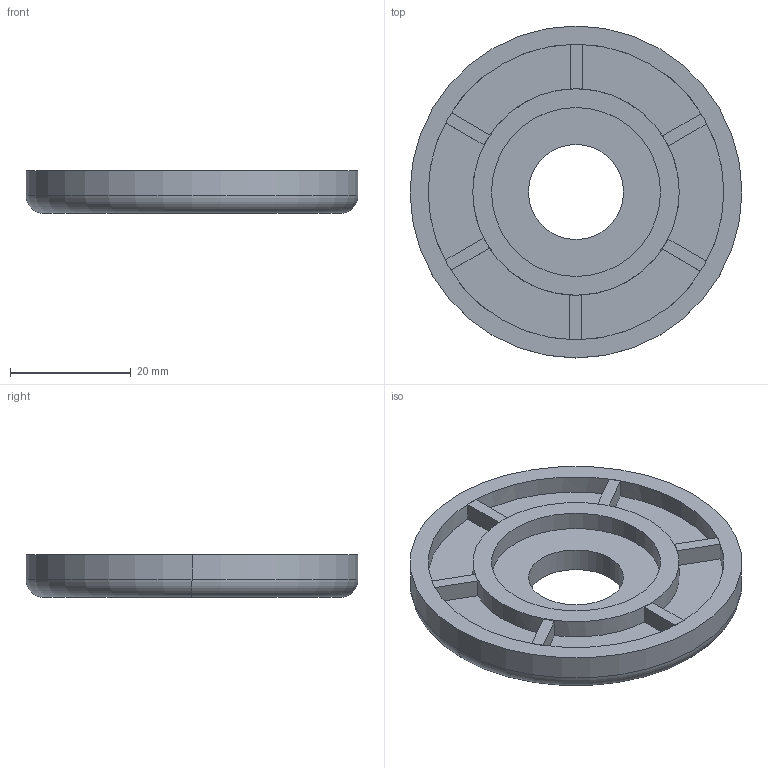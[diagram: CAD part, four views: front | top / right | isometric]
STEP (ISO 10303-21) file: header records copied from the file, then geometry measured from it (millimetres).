
FILE_DESCRIPTION (( 'STEP AP203' ), '1' );
FILE_NAME ('Äåòàëü Øàéáà Êðåïññ.STEP', '2026-08-28T09:14:49', ( '' ), ( '' ), 'SwSTEP 2.0', 'SolidWorks 2024', '' );
FILE_SCHEMA (( 'CONFIG_CONTROL_DESIGN' ));
Length unit declared in the file: millimetre
Products named in the file (1): Деталь Шайба Крепсс
Bounding box: 55 x 55 x 7.1 mm (x, y, z)
Volume: 11113.8 mm3; surface area: 6840.4 mm2
Topology: 1 solids, 1 shells, 40 faces, 106 edges, 70 vertices
Faces by surface type: plane 28, cylinder 10, torus 2
Entity records: 1343 total; most frequent: DIRECTION 236, CARTESIAN_POINT 217, ORIENTED_EDGE 212, EDGE_CURVE 106, AXIS2_PLACEMENT_3D 89, VERTEX_POINT 70, LINE 58, VECTOR 58
